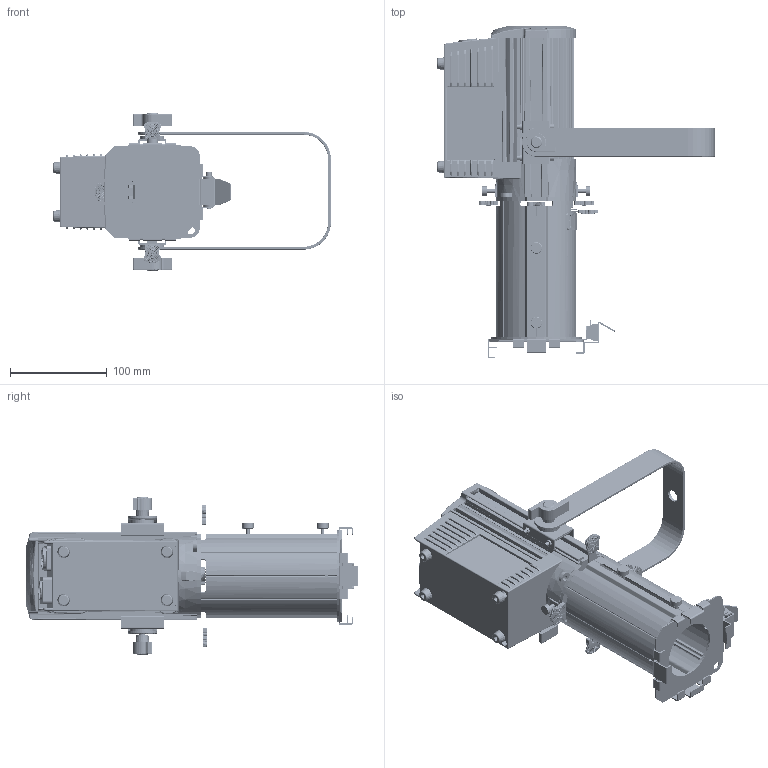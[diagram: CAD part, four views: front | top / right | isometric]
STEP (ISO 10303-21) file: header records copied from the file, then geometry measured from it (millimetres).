
FILE_DESCRIPTION((''),'2;1');
FILE_NAME('60W0001_ASM','2025-04-08T14:13:10',('ALY'),(''),'CREO PARAMETRIC BY PTC INC, 2022164','CREO PARAMETRIC BY PTC INC, 2022164','');
FILE_SCHEMA(('AUTOMOTIVE_DESIGN { 1 0 10303 214 1 1 1 1 }'));
Products named in the file (65): SANREQI____1; B6____1_1; B6____1_2; B6____1_ASM; M4____1; OQUAN-426-275____1; LV___2; DIZUO-MINI___2; QB______X_____6_1; QB______X_____6_2; QB______X_____6_3; QB______X_____6_4; QB______X_____6_5; QB______X_____6_ASM; XIANSHI-MINI___ASM_7_ASM; B2___1_2; B2___1_3; B2___1_4; B2___1_5; B2___1_ASM; PC-02__1; KN2-__1; DIZUO-MINI___ASM_7_ASM; HOUGAI___1; CR__1_1; CR__1_2; CR__1_3; CR__1_4; CR__1_ASM; JIAOTIAO-HEZI__1; HOUZU____ASM_2_ASM; DJ-MINI___1; DP___1; SN-6___1; GD-83_49____1; DW-4_8____1; QG-40_32____1; 11-TH_41____3; LV-DT_72____7; TBLJ-3___2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
Assembly tree (85 placements, depth 7):
  60W0001_ASM
    00-MINI_ASM_8_ASM
      HOUZU____ASM_2_ASM
        SANREQI____1
        B6____1_ASM
          B6____1_1
          B6____1_2
        M4____1  x2
        OQUAN-426-275____1
        LV___2
        DIZUO-MINI___ASM_7_ASM
          DIZUO-MINI___2
          XIANSHI-MINI___ASM_7_ASM
            QB______X_____6_ASM
              QB______X_____6_1
              QB______X_____6_2
              QB______X_____6_3
              QB______X_____6_4
              QB______X_____6_5
          B2___1_ASM
            B2___1_2
            B2___1_3
            B2___1_4
            B2___1_5
          PC-02__1
          KN2-__1
        HOUGAI___1
        CR__1_ASM  x2
          CR__1_1
          CR__1_2
          CR__1_3
          CR__1_4
        JIAOTIAO-HEZI__1
      DJ-MINI___1
      DP___1  x2
      SN-6___1  x2
      ZT-G-548___ASM_14_ASM
        GD-83_49____1
        DW-4_8____1
        QG-40_32____1  x4
        11-TH_41____3
        LV-DT_72____7
        TBLJ-3___2
        DGB-83_12____1
        TA-J_ASM_5____ASM_1_ASM
        SB-S_36____1  x4
        GX-GT_ASM_57____ASM_7_ASM
          TJ-2_ASM_79____ASM_1_ASM
          TJ-33_ASM_48____ASM_10_ASM
            TD_ASM_5_ASM
        XN-4_8____1  x2
        TAJ-4_ASM_5____ASM_6_ASM
          FGW-F_1____4
          S_1____2
          D_1____4
          SB-S_36____1
          MD-_1  x2
        SE__ASM_1_ASM
          S1-__2
          S2__1
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Bounding box: 287.81 x 344 x 163.5 mm (x, y, z)
Volume: 935718.7 mm3; surface area: 623292.8 mm2
Topology: 72 solids, 72 shells, 7416 faces, 18519 edges, 11119 vertices
Faces by surface type: cylinder 2690, plane 1682, bspline 1546, torus 1020, sphere 242, cone 232, extrusion 4
Entity records: 217468 total; most frequent: CARTESIAN_POINT 62660, ORIENTED_EDGE 21090, DIRECTION 19955, PRESENTATION_STYLE_ASSIGNMENT 13092, STYLED_ITEM 13081, EDGE_CURVE 10545, CURVE_STYLE 9442, AXIS2_PLACEMENT_3D 7729
